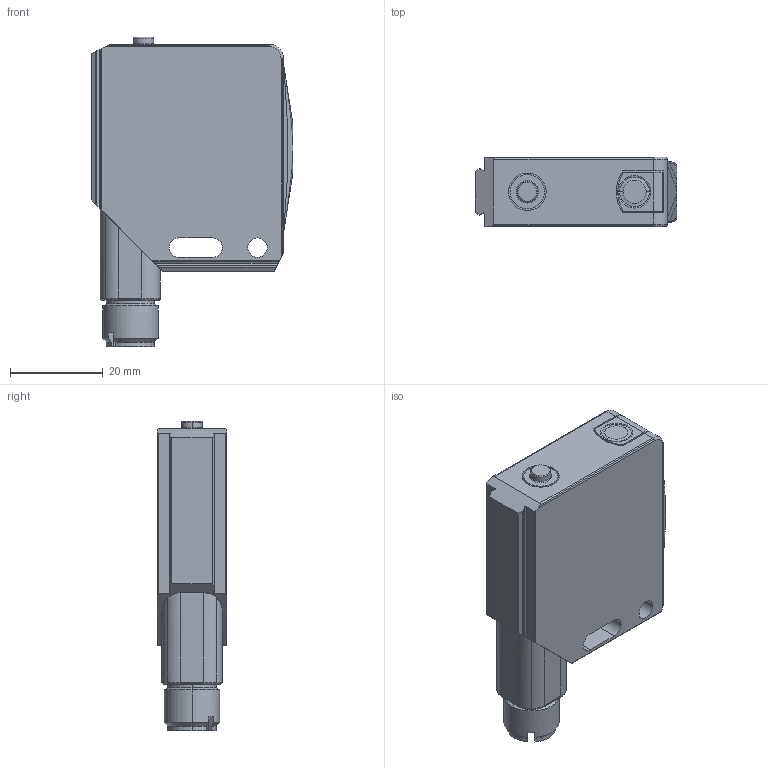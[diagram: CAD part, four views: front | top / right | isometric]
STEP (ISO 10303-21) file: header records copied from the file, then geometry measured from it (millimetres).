
FILE_DESCRIPTION((''),'2;1');
FILE_NAME('Y:\Microsonic\100436 Sensoren\Garantie\G4_Lieferung\050825 e-mail Nacharbeit4\STP\ucs-24_CX_QM.stp','2005-08-25T11:33:29',('Ohle'),(''),'Autodesk Inventor 7','Autodesk Inventor 7','');
FILE_SCHEMA(('AUTOMOTIVE_DESIGN { 1 0 10303 214 1 1 1 1 }'));
Length unit declared in the file: millimetre
Products named in the file (1): ucs-24_CX_QM
Bounding box: 43.5 x 15 x 66.85 mm (x, y, z)
Volume: 30260.2 mm3; surface area: 8301.5 mm2
Topology: 1 solids, 1 shells, 180 faces, 466 edges, 293 vertices
Faces by surface type: cylinder 84, plane 57, cone 13, sphere 10, torus 8, bspline 8
Entity records: 6565 total; most frequent: CARTESIAN_POINT 2134, DIRECTION 968, ORIENTED_EDGE 902, EDGE_CURVE 451, AXIS2_PLACEMENT_3D 380, VERTEX_POINT 288, VECTOR 208, LINE 208
